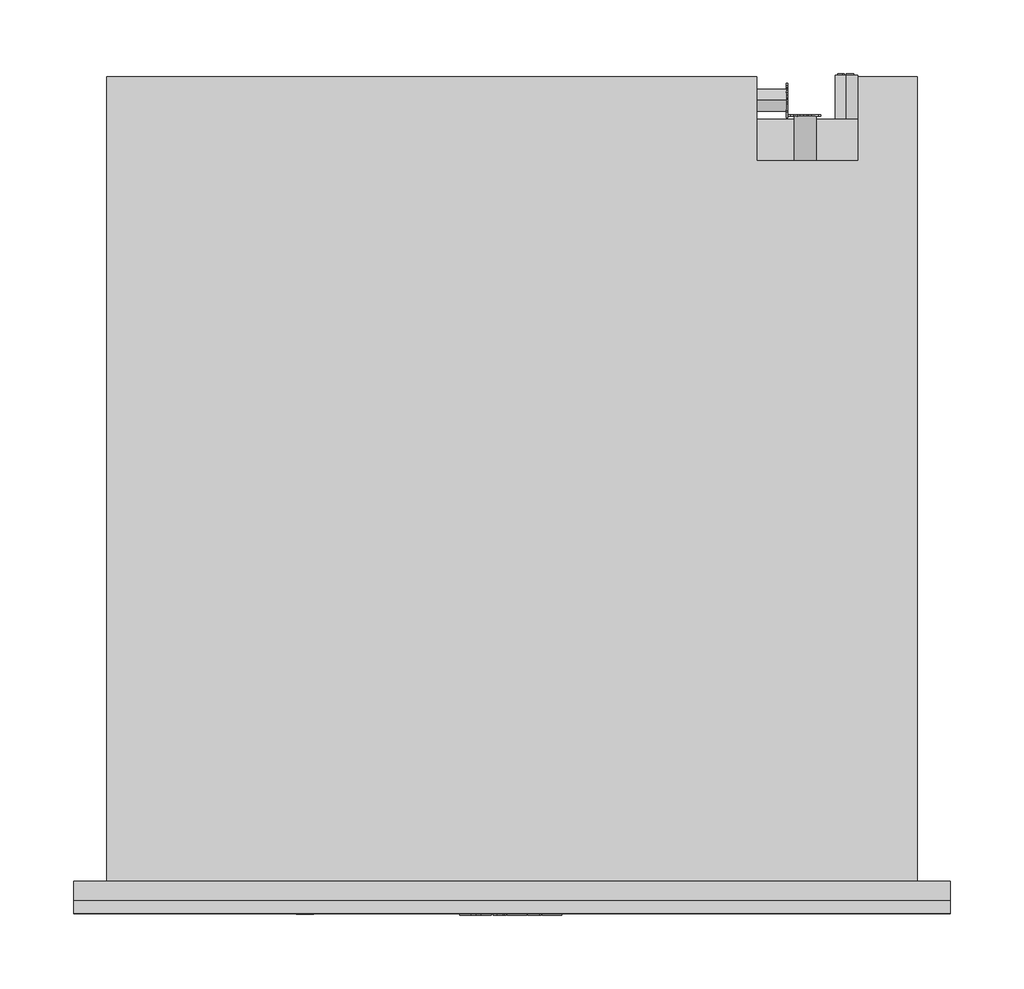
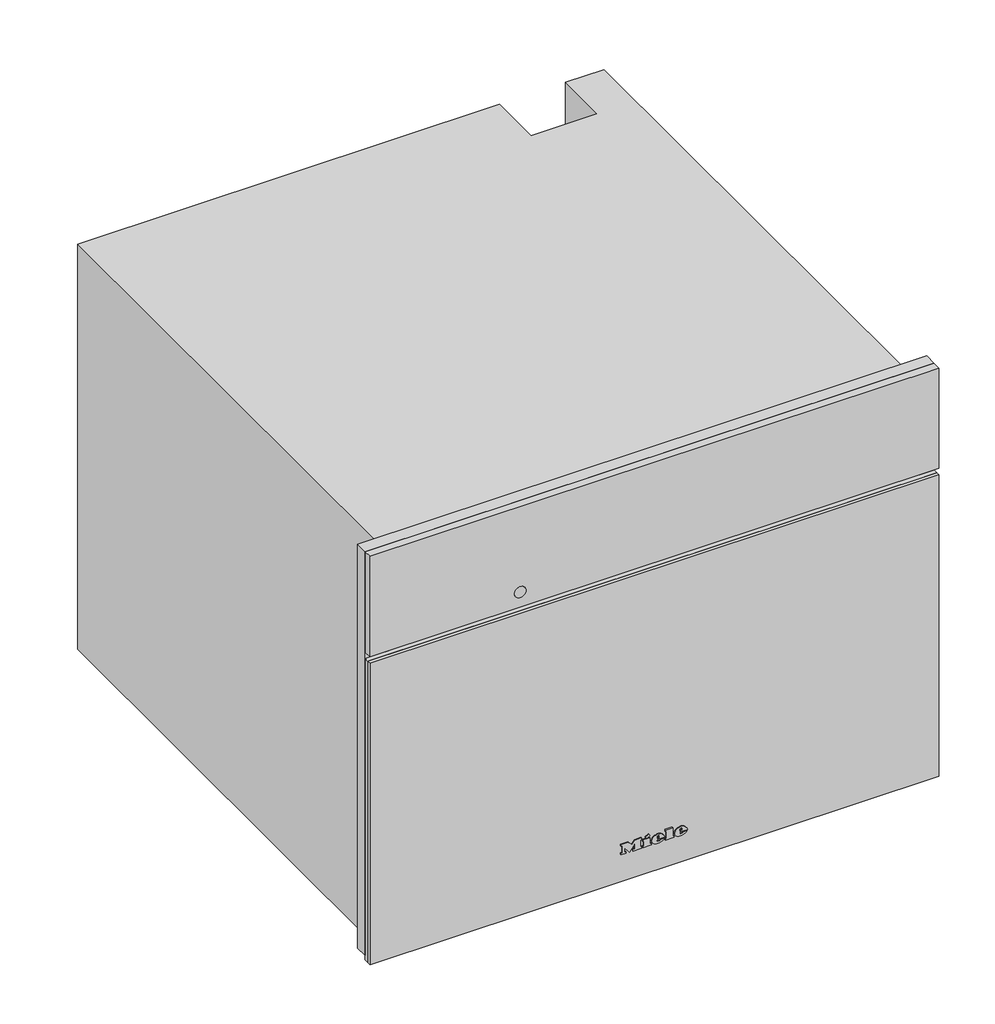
# Not in any storey: 1 proxy.
"""IFC4 building model written with IfcOpenShell, lengths in millimetres."""

from ifc_helpers import new_model, si_unit, origin, place, context, project, spatial, transform, mapped, element, save
from components import specialty_equipment_7226c9d5

model = new_model("IFC4")

# Units and contexts
model_context = context("Model", 3, world=origin())
ifc_project = project(units=[si_unit("LENGTHUNIT", "METRE", prefix="MILLI")], contexts=[model_context])

# Site, building
site = spatial("IfcSite", under=ifc_project)
building = spatial("IfcBuilding", under=site)

# Proxy
placement = place(None, origin())
specialty_equipment_shape = specialty_equipment_7226c9d5(model_context)
element("IfcBuildingElementProxy", 1, Name="12095120_F_DGC7845HCXPro_BRWS : 23784558_F_12095120_DGC7845HCXPro_BRWS", ObjectType="12095120_F_DGC7845HCXPro_BRWS : 23784558_F_12095120_DGC7845HCXPro_BRWS", at=placement, inside=building, context=model_context, shape_type="MappedRepresentation", body=[
    mapped(specialty_equipment_shape, transform((0.0, 0.0, 0.0), x_axis=(1.0, 0.0, 0.0), y_axis=(0.0, 1.0, 0.0), z_axis=(0.0, 0.0, 1.0))),
])

save(model, "model.ifc")
